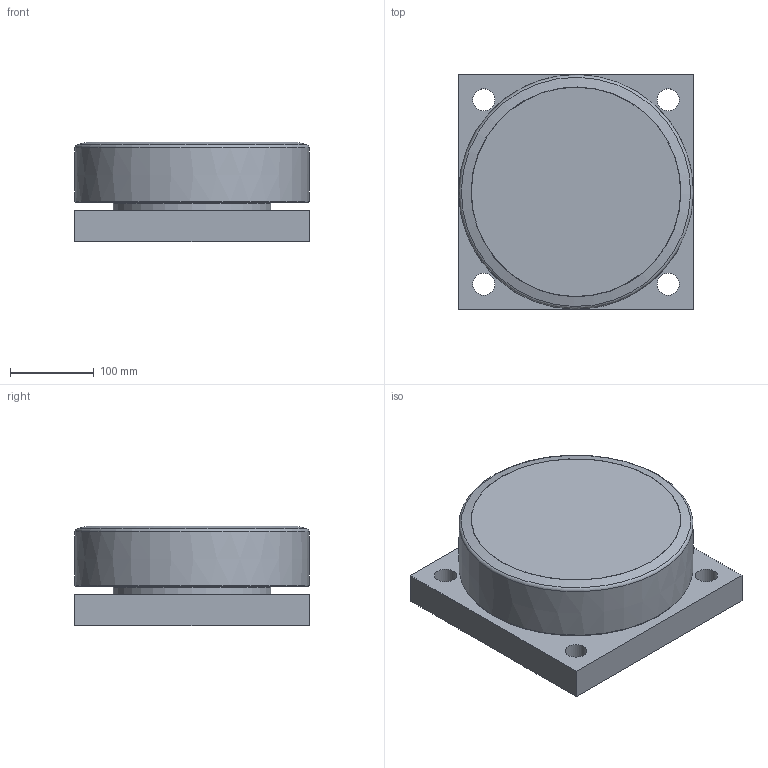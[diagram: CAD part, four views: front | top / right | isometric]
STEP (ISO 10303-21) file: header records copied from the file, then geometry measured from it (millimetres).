
FILE_DESCRIPTION((''),'2;1');
FILE_NAME('K:\Daten\KOMPONENTEN 2D + 3D\KOMPONENTEN Step-Files für extern\_ALFATEC_Mammutrollen und Profile\MR .0410\ALFATEC_MR 280.0410_BQ1000.stp','2013-10-01T17:05:07',('hipp'),(''),'Autodesk Inventor 2013','Autodesk Inventor 2013','');
FILE_SCHEMA(('CONFIG_CONTROL_DESIGN'));
Length unit declared in the file: millimetre
Products named in the file (1): MR 280.0410_BQ1000_Shrinkwrap_1
Bounding box: 280 x 280 x 119 mm (x, y, z)
Volume: 7334942.4 mm3; surface area: 350122.3 mm2
Topology: 1 solids, 1 shells, 26 faces, 57 edges, 37 vertices
Faces by surface type: plane 10, cylinder 7, cone 5, torus 3, bspline 1
Full cylindrical faces by diameter (mm): 26.211 x4, 138 x1, 150 x1, 188 x1
Entity records: 703 total; most frequent: CARTESIAN_POINT 121, DIRECTION 112, ORIENTED_EDGE 72, EDGE_LOOP 54, AXIS2_PLACEMENT_3D 50, EDGE_CURVE 36, VERTEX_POINT 32, FACE_BOUND 28
